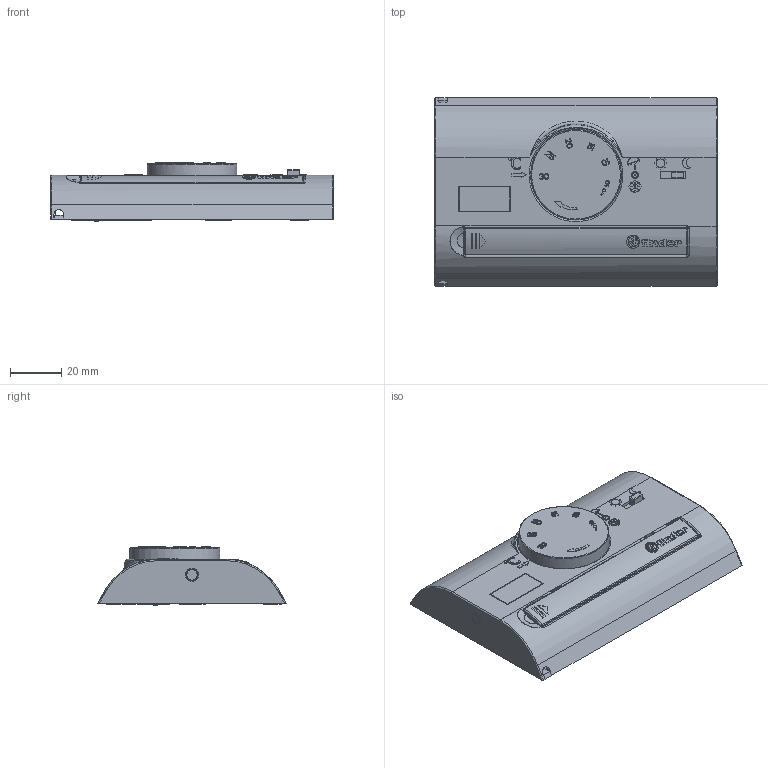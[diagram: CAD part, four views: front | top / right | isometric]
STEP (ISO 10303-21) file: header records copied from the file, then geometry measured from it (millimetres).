
FILE_DESCRIPTION( ( 'Unknown' ), '1' );
FILE_NAME( 'C:/Users/pdellaca/Desktop/1T41 catalogo/1T41_rev01.stp', 'Unknown', ( 'Unknown' ), ( 'Unknown' ), 'PSStep 15.0.49', 'Unknown', ' ' );
FILE_SCHEMA( ( 'AUTOMOTIVE_DESIGN { 1 0 10303 214 1 1 1 1 }' ) );
Length unit declared in the file: millimetre
Products named in the file (29): model1; top
Bounding box: 110 x 73.3 x 22.7 mm (x, y, z)
Surface area: 25123.3 mm2 (no closed solid volume)
Topology: 0 solids, 941 shells, 941 faces, 5248 edges, 5218 vertices
Faces by surface type: plane 731, cylinder 120, extrusion 44, bspline 23, torus 13, sphere 8, cone 2
Full cylindrical faces by diameter (mm): 1.2 x1, 2.8 x1, 3 x1, 4.5 x1, 5 x1, 5.068 x1, 5.2 x2, 35 x1
Entity records: 61945 total; most frequent: CARTESIAN_POINT 16445, DIRECTION 7182, ORIENTED_EDGE 5210, EDGE_CURVE 5210, VERTEX_POINT 5210, VECTOR 4262, LINE 4218, AXIS2_PLACEMENT_3D 1460
